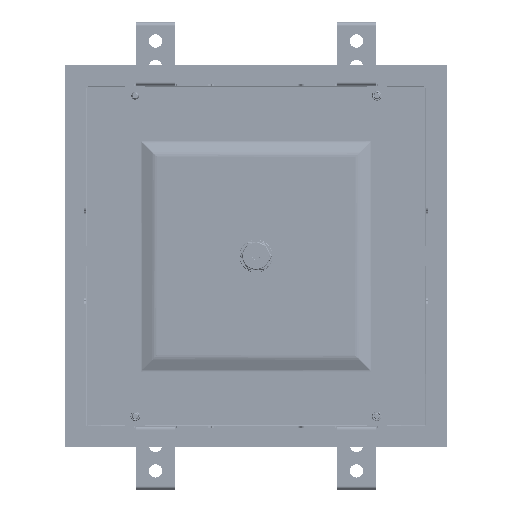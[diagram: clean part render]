
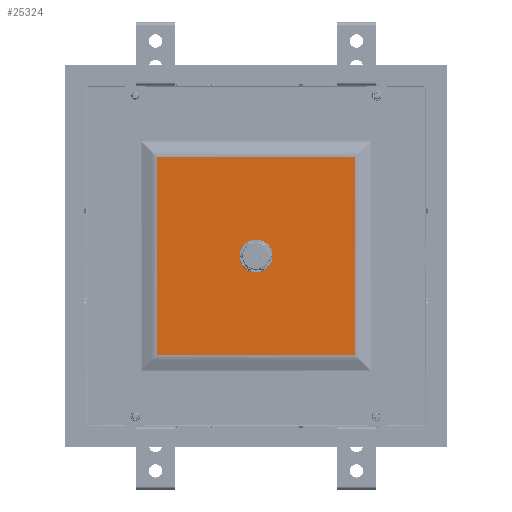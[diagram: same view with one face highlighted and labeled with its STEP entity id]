
A CAD part, top view. The second image highlights one B-rep face of the part: STEP entity #25324.
In plain terms, the highlighted planar face has unit normal (0, 0, 1) as drawn and (0, 1, 0) by its records, which use the part's own axes.
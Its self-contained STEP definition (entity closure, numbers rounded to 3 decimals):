
#1696 = ORIENTED_EDGE ( 'NONE', *, *, #11487, .T. ) ;
#3804 = CIRCLE ( 'NONE', #22747, 11.5 ) ;
#3876 = EDGE_LOOP ( 'NONE', ( #30413, #1696 ) ) ;
#4512 = VERTEX_POINT ( 'NONE', #6113 ) ;
#4772 = CARTESIAN_POINT ( 'NONE',  ( 26.663, 0., 35.291 ) ) ;
#5065 = CIRCLE ( 'NONE', #35406, 11.5 ) ;
#5369 = EDGE_LOOP ( 'NONE', ( #17918, #6535, #19716, #28806 ) ) ;
#5593 = LINE ( 'NONE', #29731, #37719 ) ;
#6113 = CARTESIAN_POINT ( 'NONE',  ( -51.04, 0., -42.412 ) ) ;
#6535 = ORIENTED_EDGE ( 'NONE', *, *, #7003, .T. ) ;
#6674 = EDGE_CURVE ( 'NONE', #4512, #34636, #9770, .T. ) ;
#7003 = EDGE_CURVE ( 'NONE', #19664, #17323, #5593, .T. ) ;
#7176 = CARTESIAN_POINT ( 'NONE',  ( 0., 0., 112.996 ) ) ;
#7391 = VECTOR ( 'NONE', #21832, 1000. ) ;
#8436 = CARTESIAN_POINT ( 'NONE',  ( 104.369, 0., 112.996 ) ) ;
#9770 = LINE ( 'NONE', #30566, #7391 ) ;
#9788 = VERTEX_POINT ( 'NONE', #25369 ) ;
#10376 = VERTEX_POINT ( 'NONE', #26121 ) ;
#11487 = EDGE_CURVE ( 'NONE', #10376, #9788, #5065, .T. ) ;
#11564 = DIRECTION ( 'NONE',  ( 0., 0., 1. ) ) ;
#11681 = DIRECTION ( 'NONE',  ( 0., 1., 0. ) ) ;
#11701 = VECTOR ( 'NONE', #22400, 1000. ) ;
#11936 = EDGE_CURVE ( 'NONE', #9788, #10376, #3804, .T. ) ;
#12353 = CARTESIAN_POINT ( 'NONE',  ( -51.04, 0., 112.996 ) ) ;
#14262 = DIRECTION ( 'NONE',  ( 0., -1., 0. ) ) ;
#14644 = CARTESIAN_POINT ( 'NONE',  ( 0., 0., 0. ) ) ;
#14736 = DIRECTION ( 'NONE',  ( 0., -1., 0. ) ) ;
#15249 = EDGE_CURVE ( 'NONE', #34636, #19664, #25163, .T. ) ;
#15638 = VECTOR ( 'NONE', #27346, 1000. ) ;
#15665 = LINE ( 'NONE', #38845, #15638 ) ;
#17323 = VERTEX_POINT ( 'NONE', #27641 ) ;
#17613 = DIRECTION ( 'NONE',  ( 0., 0., 1. ) ) ;
#17918 = ORIENTED_EDGE ( 'NONE', *, *, #15249, .T. ) ;
#19664 = VERTEX_POINT ( 'NONE', #8436 ) ;
#19716 = ORIENTED_EDGE ( 'NONE', *, *, #38893, .T. ) ;
#20615 = DIRECTION ( 'NONE',  ( 0., 0., -1. ) ) ;
#21832 = DIRECTION ( 'NONE',  ( 0., 0., 1. ) ) ;
#22400 = DIRECTION ( 'NONE',  ( 1., 0., 0. ) ) ;
#22747 = AXIS2_PLACEMENT_3D ( 'NONE', #4772, #14262, #23338 ) ;
#22765 = FACE_BOUND ( 'NONE', #3876, .T. ) ;
#23338 = DIRECTION ( 'NONE',  ( 0., 0., 1. ) ) ;
#24364 = CARTESIAN_POINT ( 'NONE',  ( 26.663, 0., 35.291 ) ) ;
#25163 = LINE ( 'NONE', #7176, #11701 ) ;
#25324 = ADVANCED_FACE ( 'NONE', ( #37828, #22765 ), #34859, .T. ) ;
#25369 = CARTESIAN_POINT ( 'NONE',  ( 26.663, 0., 46.791 ) ) ;
#26121 = CARTESIAN_POINT ( 'NONE',  ( 26.663, 0., 23.791 ) ) ;
#27346 = DIRECTION ( 'NONE',  ( -1., 0., 0. ) ) ;
#27641 = CARTESIAN_POINT ( 'NONE',  ( 104.369, 0., -42.412 ) ) ;
#28806 = ORIENTED_EDGE ( 'NONE', *, *, #6674, .T. ) ;
#29731 = CARTESIAN_POINT ( 'NONE',  ( 104.369, 0., 0. ) ) ;
#30413 = ORIENTED_EDGE ( 'NONE', *, *, #11936, .T. ) ;
#30566 = CARTESIAN_POINT ( 'NONE',  ( -51.04, 0., 0. ) ) ;
#33259 = AXIS2_PLACEMENT_3D ( 'NONE', #14644, #11681, #17613 ) ;
#34636 = VERTEX_POINT ( 'NONE', #12353 ) ;
#34859 = PLANE ( 'NONE',  #33259 ) ;
#35406 = AXIS2_PLACEMENT_3D ( 'NONE', #24364, #14736, #11564 ) ;
#37719 = VECTOR ( 'NONE', #20615, 1000. ) ;
#37828 = FACE_OUTER_BOUND ( 'NONE', #5369, .T. ) ;
#38845 = CARTESIAN_POINT ( 'NONE',  ( 0., 0., -42.412 ) ) ;
#38893 = EDGE_CURVE ( 'NONE', #17323, #4512, #15665, .T. ) ;
